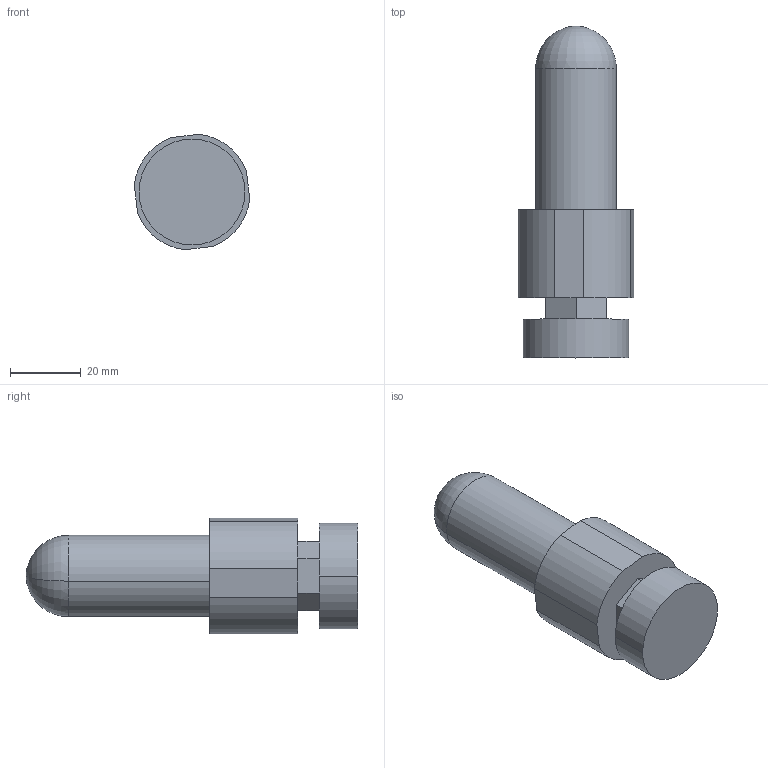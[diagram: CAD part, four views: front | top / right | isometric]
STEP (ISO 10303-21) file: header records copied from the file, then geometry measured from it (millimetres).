
FILE_DESCRIPTION (( 'STEP AP214' ), '1' );
FILE_NAME ('JB-408.step', '2024-02-15T05:11:44', ( 'catia' ), ( 'HP Inc.' ), 'SwSTEP 2.0', 'SolidWorks 2021', '' );
FILE_SCHEMA (( 'AUTOMOTIVE_DESIGN' ));
Length unit declared in the file: millimetre
Products named in the file (4): JB-408_轡寶M10; JB-408; JB-417
Assembly tree (3 placements, depth 2):
  JB-408
    JB-408
    JB-417
    JB-408_轡寶M10
Bounding box: 32.75 x 94 x 32.75 mm (x, y, z)
Volume: 46202.4 mm3; surface area: 18734.5 mm2
Topology: 3 solids, 3 shells, 38 faces, 86 edges, 54 vertices
Faces by surface type: plane 18, cylinder 16, cone 2, torus 2
Entity records: 1202 total; most frequent: DIRECTION 204, CARTESIAN_POINT 180, ORIENTED_EDGE 164, EDGE_CURVE 82, AXIS2_PLACEMENT_3D 78, VERTEX_POINT 54, VECTOR 48, LINE 48
